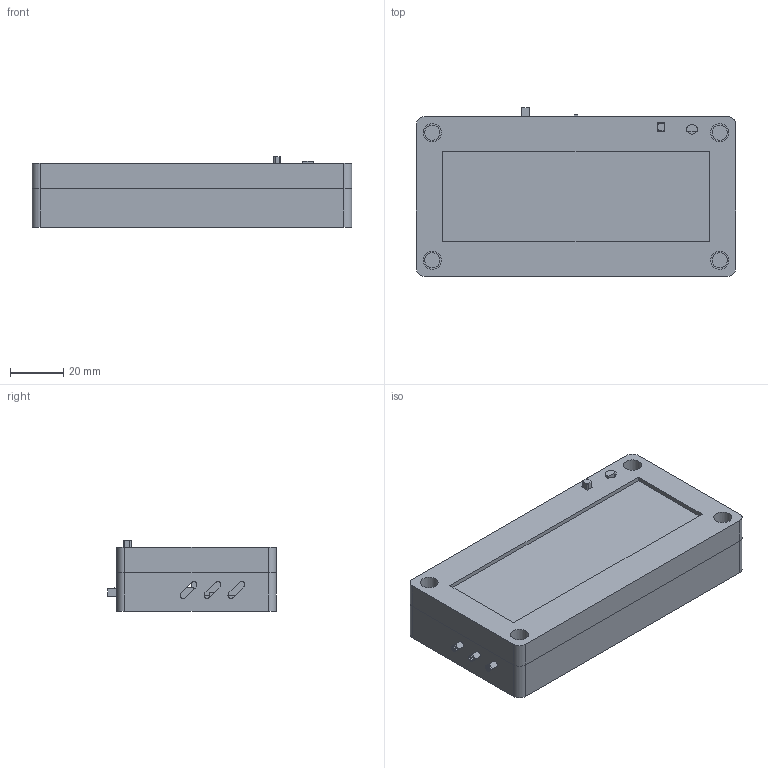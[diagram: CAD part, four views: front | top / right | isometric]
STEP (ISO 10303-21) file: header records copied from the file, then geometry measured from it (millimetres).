
FILE_DESCRIPTION(/* description */ (''),/* implementation_level */ '2;1');
FILE_NAME(/* name */ 'little-on-air-v28-light-pipes.step',/* time_stamp */ '2026-09-13T13:01:54-07:00',/* author */ (''),/* organization */ (''),/* preprocessor_version */ 'ST-DEVELOPER v20.2',/* originating_system */ 'Autodesk Translation Framework v15.15.0.0',/* authorisation */ '');
FILE_SCHEMA (('AUTOMOTIVE_DESIGN { 1 0 10303 214 3 1 1 }'));
Length unit declared in the file: centimetre
Products named in the file (22): (Unsaved); 01 Front optical bezel; 02 Clear acrylic; 03 Registered graphic backing; 04 Optical retainer; REF Four LEDs; REF Charger; REF SPDT power switch; REF SPDT moving lever; REF DPDT; REF DPDT moving actuator; REF XIAO; 05 Rear electronics housing; 06 Electronics retaining yoke; 07 Front guided reset button; REF Battery; REF Capacitor; REF M3 screws; REF M3 nuts; 08 Front RGB light guide; 09 Upper charger light guide; 10 Lower charger light guide
Assembly tree (21 placements, depth 2):
  (Unsaved)
    01 Front optical bezel
    02 Clear acrylic
    03 Registered graphic backing
    04 Optical retainer
    REF Four LEDs
    REF Charger
    REF SPDT power switch
    REF SPDT moving lever
    REF DPDT
    REF DPDT moving actuator
    REF XIAO
    05 Rear electronics housing
    06 Electronics retaining yoke
    07 Front guided reset button
    REF Battery
    REF Capacitor
    REF M3 screws
    REF M3 nuts
    08 Front RGB light guide
    09 Upper charger light guide
    10 Lower charger light guide
Bounding box: 120 x 63.4 x 26.5 mm (x, y, z)
Volume: 87068.7 mm3; surface area: 80584.1 mm2
Topology: 60 solids, 60 shells, 1696 faces, 4531 edges, 3018 vertices
Faces by surface type: plane 1609, cylinder 87
Full cylindrical faces by diameter (mm): 3 x8, 3.01 x8, 3.2 x3, 3.6 x24, 5.7 x8, 6.8 x4, 8 x1
Entity records: 52729 total; most frequent: CARTESIAN_POINT 9288, ORIENTED_EDGE 9062, DIRECTION 8186, EDGE_CURVE 4531, LINE 4354, VECTOR 4354, VERTEX_POINT 3018, AXIS2_PLACEMENT_3D 1916
